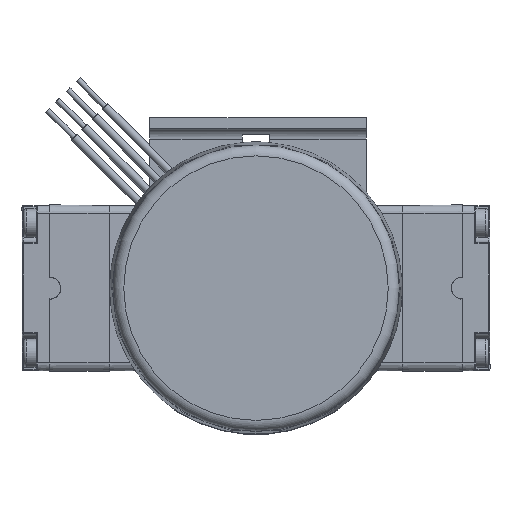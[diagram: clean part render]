
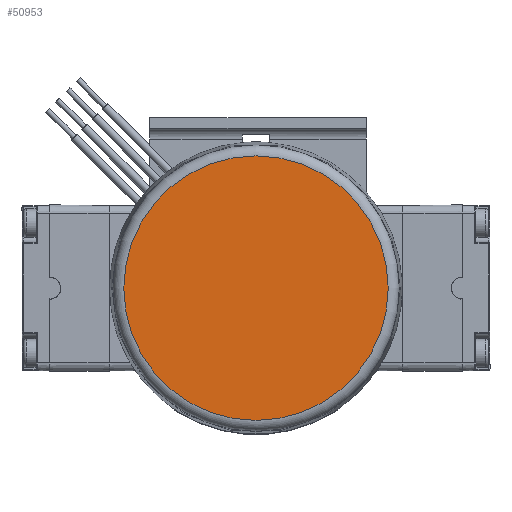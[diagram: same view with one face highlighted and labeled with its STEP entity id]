
A CAD part, front view. The second image highlights one B-rep face of the part: STEP entity #50953.
In plain terms, the highlighted planar face has unit normal (0, -1, 0).
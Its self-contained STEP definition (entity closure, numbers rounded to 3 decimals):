
#378 = PLANE ( 'NONE',  #25312 ) ;
#3452 = DIRECTION ( 'NONE',  ( -1., 0., 0. ) ) ;
#3774 = VERTEX_POINT ( 'NONE', #45071 ) ;
#4732 = AXIS2_PLACEMENT_3D ( 'NONE', #55509, #29480, #3452 ) ;
#9060 = ORIENTED_EDGE ( 'NONE', *, *, #22543, .F. ) ;
#22266 = CARTESIAN_POINT ( 'NONE',  ( 0., -45.75, 0. ) ) ;
#22543 = EDGE_CURVE ( 'NONE', #3774, #3774, #39674, .T. ) ;
#25312 = AXIS2_PLACEMENT_3D ( 'NONE', #22266, #52673, #26631 ) ;
#26631 = DIRECTION ( 'NONE',  ( -1., 0., 0. ) ) ;
#27702 = EDGE_LOOP ( 'NONE', ( #9060 ) ) ;
#29480 = DIRECTION ( 'NONE',  ( 0., 1., 0. ) ) ;
#39674 = CIRCLE ( 'NONE', #4732, 24.419 ) ;
#45071 = CARTESIAN_POINT ( 'NONE',  ( -24.419, -45.75, 0. ) ) ;
#45708 = FACE_OUTER_BOUND ( 'NONE', #27702, .T. ) ;
#50953 = ADVANCED_FACE ( 'NONE', ( #45708 ), #378, .F. ) ;
#52673 = DIRECTION ( 'NONE',  ( 0., 1., 0. ) ) ;
#55509 = CARTESIAN_POINT ( 'NONE',  ( 0., -45.75, 0. ) ) ;
